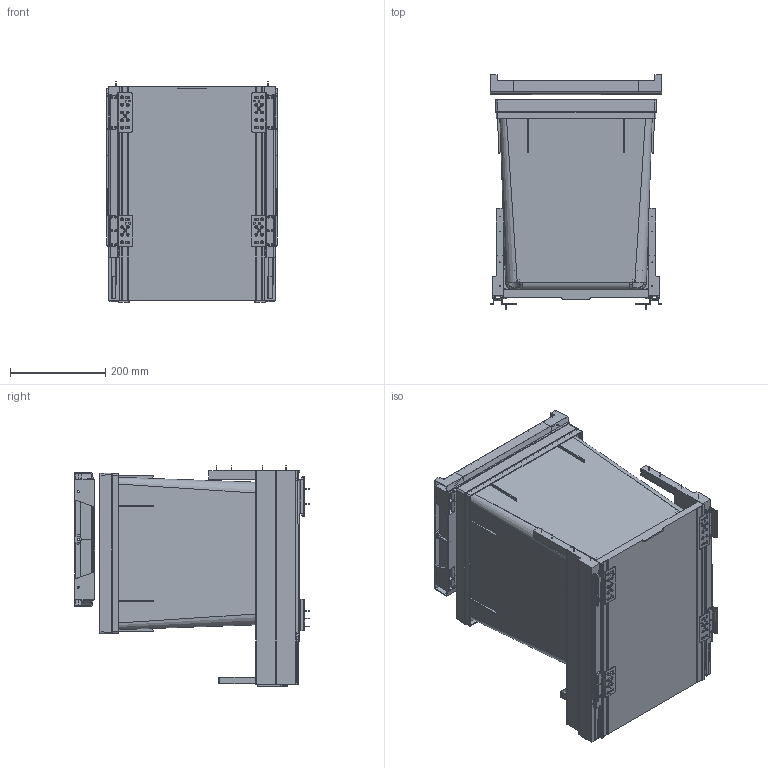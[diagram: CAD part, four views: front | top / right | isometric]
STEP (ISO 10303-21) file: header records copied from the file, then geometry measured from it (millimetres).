
FILE_DESCRIPTION((''),'2;1');
FILE_NAME('1003761','2024-09-19T10:00:33',('fba'),(''),'CREO PARAMETRIC BY PTC INC, 2022024','CREO PARAMETRIC BY PTC INC, 2022024','');
FILE_SCHEMA(('AUTOMOTIVE_DESIGN { 1 0 10303 214 1 1 1 1 }'));
Products named in the file (1): 1003761
Bounding box: 360 x 491.5 x 461.2 mm (x, y, z)
Volume: 6376803.5 mm3; surface area: 2716031.5 mm2
Topology: 19 solids, 19 shells, 2256 faces, 6103 edges, 3958 vertices
Faces by surface type: plane 1087, cylinder 657, bspline 168, torus 124, extrusion 94, cone 82, sphere 44
Entity records: 92576 total; most frequent: CARTESIAN_POINT 36778, ORIENTED_EDGE 12150, DIRECTION 10671, EDGE_CURVE 6075, VERTEX_POINT 3958, VECTOR 3656, LINE 3562, AXIS2_PLACEMENT_3D 3506
